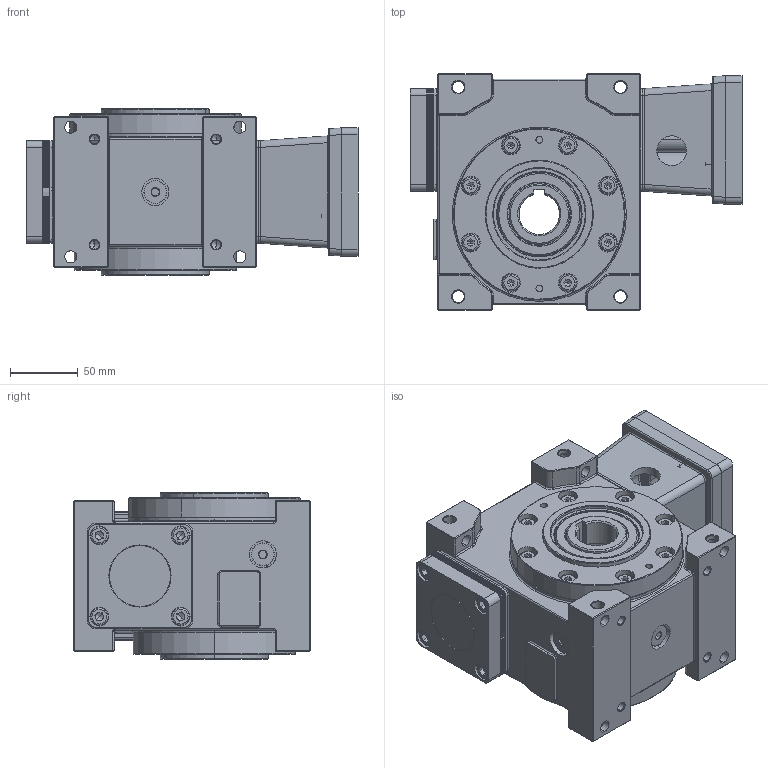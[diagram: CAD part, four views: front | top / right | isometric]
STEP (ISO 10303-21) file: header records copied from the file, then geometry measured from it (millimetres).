
FILE_DESCRIPTION (( 'STEP AP203' ), '1' );
FILE_NAME ('EDB55-30-P4-BM F70 50.STEP', '2022-01-04T05:23:25', ( '' ), ( '' ), 'SwSTEP 2.0', 'SolidWorks 2021', '' );
FILE_SCHEMA (( 'CONFIG_CONTROL_DESIGN' ));
Length unit declared in the file: millimetre
Products named in the file (1): EDB55-30-P4-BM F70 50
Bounding box: 245.7 x 175 x 123 mm (x, y, z)
Volume: 2977344.3 mm3; surface area: 388646.3 mm2
Topology: 46 solids, 55 shells, 2217 faces, 5794 edges, 3586 vertices
Faces by surface type: plane 813, cylinder 732, cone 370, torus 258, sphere 32, bspline 12
Entity records: 71923 total; most frequent: CARTESIAN_POINT 17772, DIRECTION 11676, ORIENTED_EDGE 11228, EDGE_CURVE 5614, AXIS2_PLACEMENT_3D 4632, VERTEX_POINT 3522, EDGE_LOOP 2470, CIRCLE 2426
